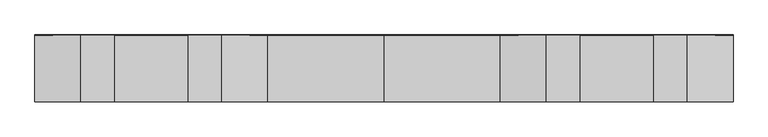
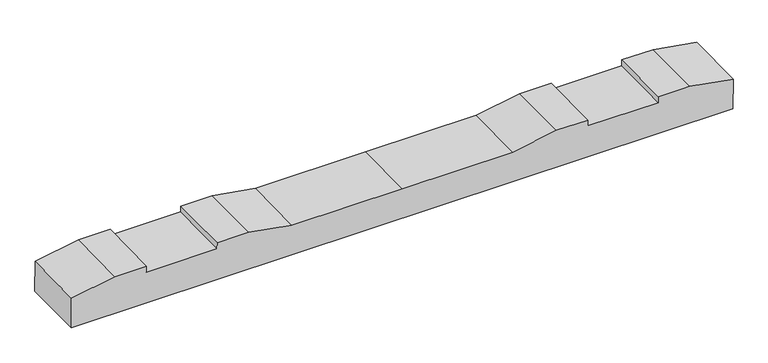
"""IFC4 building model written with IfcOpenShell, lengths in millimetres: proxy geometry, 轨枕-立面角度 : 轨枕-立面角度."""

from ifc_helpers import new_model, si_unit, frame, origin, place, context, project, spatial, polyline, outline, extrude, source, transform, mapped, element, save


def generic_models_c754ccd0(model_context):
    return source(origin(), model_context, "Body", "SweptSolid", [
        extrude(outline(polyline([(0.0, 0.0), (2099.7669328, 0.0), (2099.7669328, -100.020689), (1961.8834664, -124.5), (1861.8834664, -124.5), (1861.8834664, -104.5), (1637.8834664, -104.5), (1637.8834664, -124.5), (1537.8834664, -124.5), (1399.8834664, -100.0), (1049.8834664, -100.0), (699.8834664, -100.0), (561.8834664, -124.5), (461.8834664, -124.5), (461.8834664, -104.5), (237.8834664, -104.5), (237.8834664, -124.5), (137.8834664, -124.5), (0.0, -100.020689), (0.0, 0.0)])), frame((-1049.8834664, -99.0168912, -105.4319935), z_axis=(0.0, 0.9999561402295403, 0.009365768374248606), x_axis=(1.0, 0.0, 0.0)), (0.0, 0.0, 1.0), 200.0),
    ])


if __name__ == "__main__":
    model = new_model("IFC4")
    model_context = context("Model", 3, world=origin())
    ifc_project = project(units=[si_unit("LENGTHUNIT", "METRE", prefix="MILLI")], contexts=[model_context])
    site = spatial("IfcSite", under=ifc_project)
    building = spatial("IfcBuilding", under=site)
    placement = place(None, origin())
    generic_models_shape = generic_models_c754ccd0(model_context)
    element("IfcBuildingElementProxy", 1, Name="轨枕-立面角度 : 轨枕-立面角度", ObjectType="轨枕-立面角度 : 轨枕-立面角度", at=placement, inside=building, context=model_context, shape_type="MappedRepresentation", body=[
        mapped(generic_models_shape, transform((0.0, 0.0, 0.0), x_axis=(1.0, 0.0, 0.0), y_axis=(0.0, 1.0, 0.0), z_axis=(0.0, 0.0, 1.0))),
    ])
    save(model, "model.ifc")
